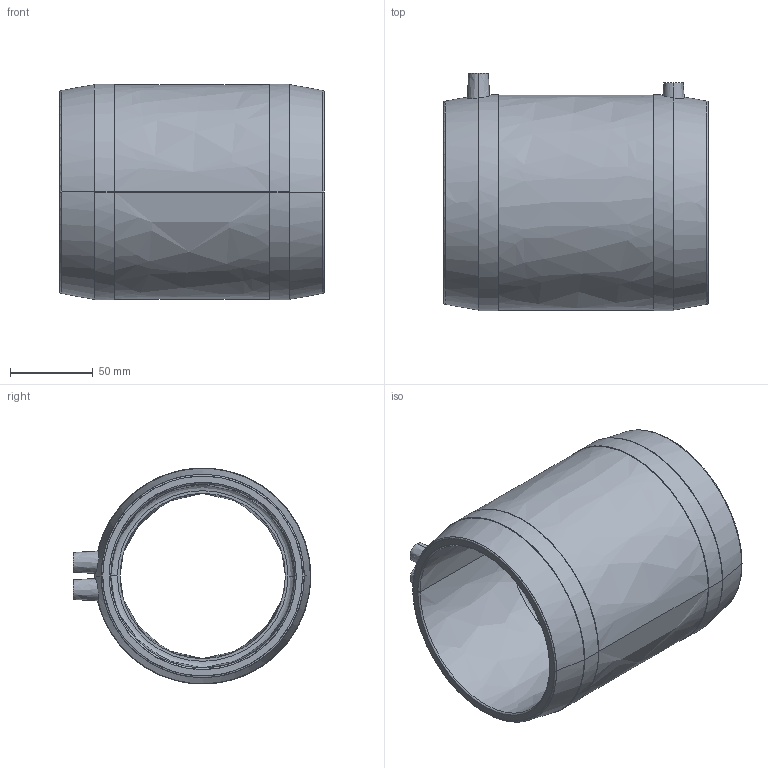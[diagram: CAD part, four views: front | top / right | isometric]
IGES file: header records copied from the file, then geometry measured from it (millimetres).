
Start section:  PTC IGES file: rem_d110_dn100_01.igs
Global section: file name: rem_d110_dn100_01.igs; native system: Pro/ENGINEER by Parametric Technology Corporation; preprocessor: 2011490; author: mtunjic; organization: Unknown; date: 20130806.113727; units: millimetre
Bounding box: 160 x 143.5 x 130.6 mm (x, y, z)
Surface area: 127365.5 mm2 (no closed solid volume)
Topology: 0 solids, 0 shells, 174 faces, 888 edges, 888 vertices
Faces by surface type: bspline 174
